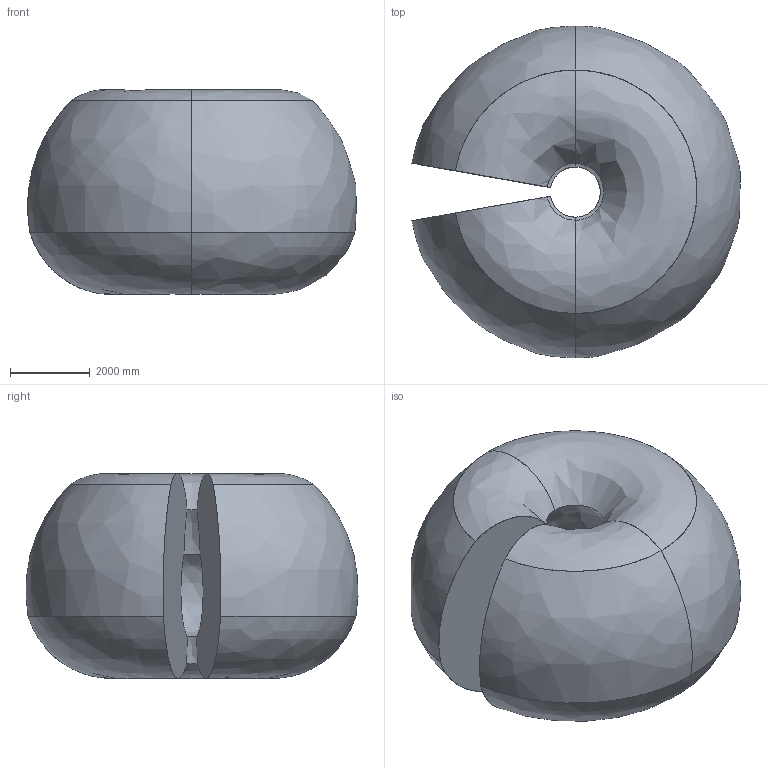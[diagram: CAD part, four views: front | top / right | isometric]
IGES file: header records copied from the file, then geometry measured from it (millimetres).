
Start section: SolidWorks IGES file using analytic representation for surfaces
Global section: file name: B:\DM\Robotics\SEROP_DEPT\ROPR\PR\PRIM\Arkiv och Arbetsmappar per person\Nicolin\1 Work Items\3-220301 - Further updates of working area\Ändring\8700\420\Klara\IRB8700_550-420_IRC5_WORKING_AREA.IGS; native system: SolidWorks 2016; preprocessor: SolidWorks 2016; author: SENIAHL; date: 190122.124855; units: millimetre
Bounding box: 8225.58 x 8309.36 x 5131.14 mm (x, y, z)
Surface area: 232743302.3 mm2 (no closed solid volume)
Topology: 0 solids, 0 shells, 20 faces, 288 edges, 288 vertices
Faces by surface type: bspline 20
